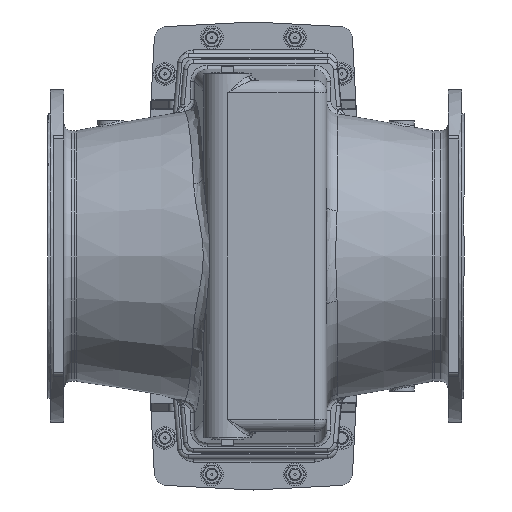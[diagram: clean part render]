
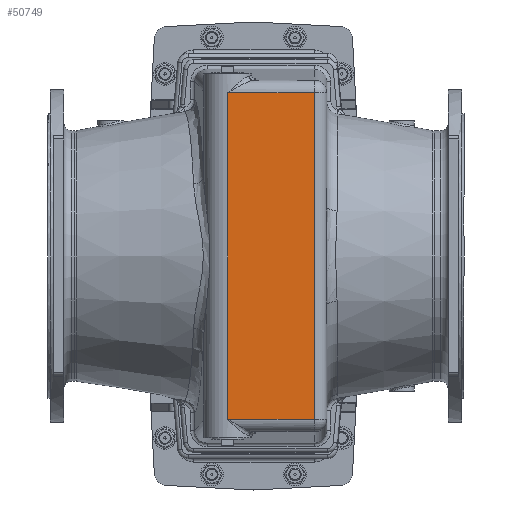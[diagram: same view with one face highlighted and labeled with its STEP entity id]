
A CAD part, front view. The second image highlights one B-rep face of the part: STEP entity #50749.
In plain terms, the highlighted planar face has unit normal (0, -1, 0).
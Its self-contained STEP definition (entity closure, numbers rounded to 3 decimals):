
#1601=LINE('',#83381,#5111);
#1604=LINE('',#83391,#5114);
#2482=LINE('',#88333,#5992);
#2483=LINE('',#88334,#5993);
#5111=VECTOR('',#60526,10.);
#5114=VECTOR('',#60537,10.);
#5992=VECTOR('',#62519,10.);
#5993=VECTOR('',#62520,10.);
#8384=PLANE('',#54430);
#11402=FACE_OUTER_BOUND('',#14535,.T.);
#14535=EDGE_LOOP('',(#39362,#39363,#39364,#39365));
#22004=VERTEX_POINT('',#83367);
#22005=VERTEX_POINT('',#83380);
#22007=VERTEX_POINT('',#83388);
#22008=VERTEX_POINT('',#83390);
#27442=EDGE_CURVE('',#22004,#22005,#1601,.T.);
#27447=EDGE_CURVE('',#22007,#22008,#1604,.T.);
#28637=EDGE_CURVE('',#22005,#22007,#2482,.T.);
#28638=EDGE_CURVE('',#22008,#22004,#2483,.T.);
#39362=ORIENTED_EDGE('',*,*,#28637,.F.);
#39363=ORIENTED_EDGE('',*,*,#27442,.F.);
#39364=ORIENTED_EDGE('',*,*,#28638,.F.);
#39365=ORIENTED_EDGE('',*,*,#27447,.F.);
#50749=ADVANCED_FACE('',(#11402),#8384,.T.);
#54430=AXIS2_PLACEMENT_3D('',#88332,#62517,#62518);
#60526=DIRECTION('',(1.,0.,0.));
#60537=DIRECTION('',(-1.,0.,0.));
#62517=DIRECTION('center_axis',(0.,-1.,0.));
#62518=DIRECTION('ref_axis',(0.,0.,-1.));
#62519=DIRECTION('',(0.,0.,-1.));
#62520=DIRECTION('',(0.,0.,1.));
#83367=CARTESIAN_POINT('',(-174.474,-306.,314.088));
#83380=CARTESIAN_POINT('',(-8.,-306.,314.088));
#83381=CARTESIAN_POINT('',(0.,-306.,314.088));
#83388=CARTESIAN_POINT('',(-8.,-306.,-314.088));
#83390=CARTESIAN_POINT('',(-174.474,-306.,-314.088));
#83391=CARTESIAN_POINT('',(0.,-306.,-314.088));
#88332=CARTESIAN_POINT('Origin',(0.,-306.,0.));
#88333=CARTESIAN_POINT('',(-8.,-306.,0.));
#88334=CARTESIAN_POINT('',(-174.474,-306.,0.));
